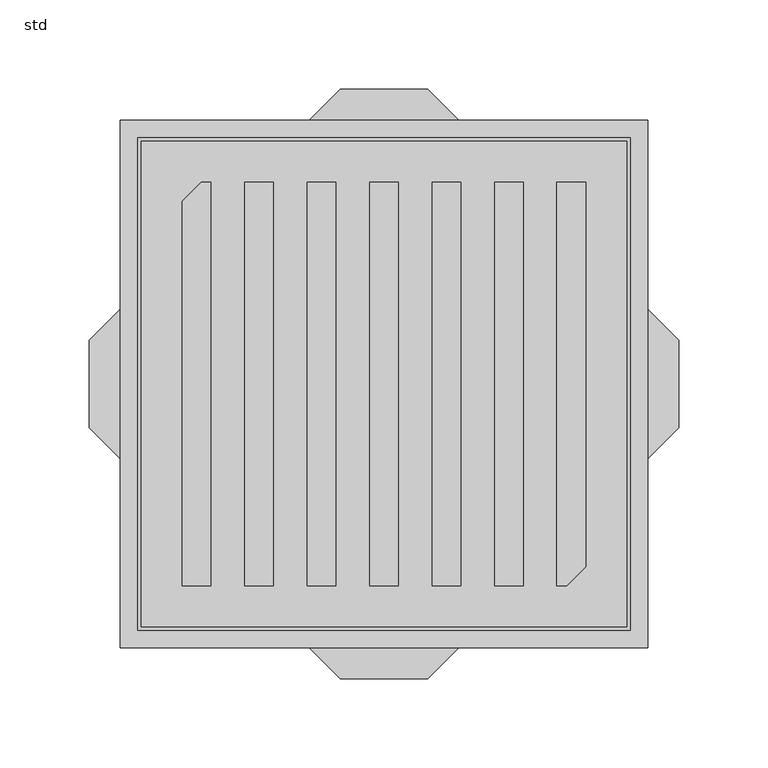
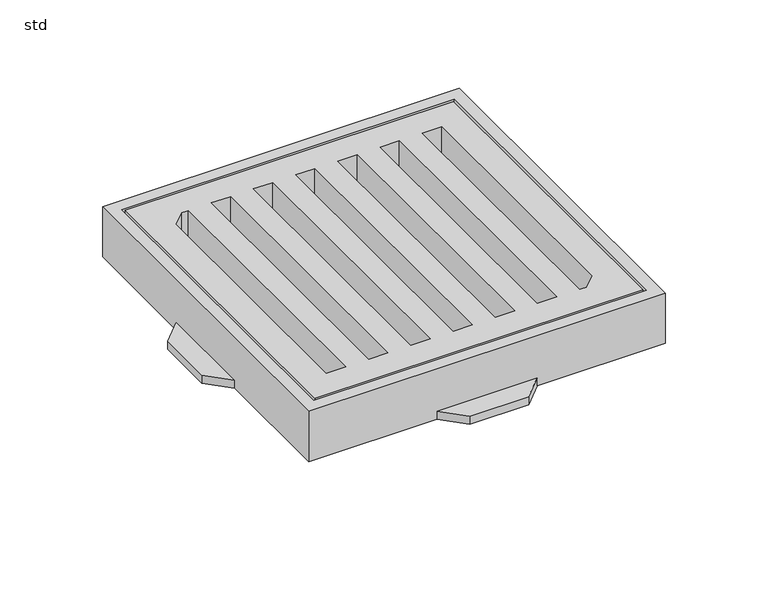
"""IFC4 building model written with IfcOpenShell, lengths in millimetres: sanitary terminal geometry, ZZZ_do_not_use_PF_CI_WPB_top frame with grating for Passavant Jet_ACO : std."""

from ifc_helpers import new_model, si_unit, point, frame, origin, origin_2d, place, context, project, spatial, polyline, circle_curve, trimmed, segment, composite_curve, outline, extrude, faceted_brep, source, transform, mapped, element, save
from ifc_brep_helpers import plane_surface, revolved_surface, advanced_brep


def std_5ca6e648(model_context):
    return source(origin(), model_context, "Body", "SolidModel", [
        extrude(outline(composite_curve([segment(trimmed(circle_curve(origin_2d(), 91.1), [point((91.1, 0.0))], [point((-91.1, 0.0))], False, "CARTESIAN"), True, "CONTINUOUS"), segment(trimmed(circle_curve(origin_2d(), 91.1), [point((-91.1, 0.0))], [point((91.1, 0.0))], False, "CARTESIAN"), True, "CONTINUOUS")], self_intersect=False)), frame((0.0, 0.0, -5.0), z_axis=(0.0, 0.0, 1.0), x_axis=(1.0, 0.0, 0.0)), (0.0, 0.0, 1.0), 5.0),
        advanced_brep(
        [(100.0, 0.0, 0.0), (-100.0, 0.0, 0.0), (122.5, 0.0, 36.0), (-122.5, 0.0, 36.0)],
        [
            (0, 1, circle_curve(frame((0.0, 0.0, 0.0), z_axis=(0.0, 0.0, -1.0), x_axis=(1.0, 0.0, 0.0)), 100.0)),
            (1, 0, circle_curve(frame((0.0, 0.0, 0.0), z_axis=(0.0, 0.0, -1.0), x_axis=(-1.0, 0.0, 0.0)), 100.0)),
            (2, 3, circle_curve(frame((0.0, 0.0, 36.0), z_axis=(0.0, 0.0, 1.0), x_axis=(-1.0, 0.0, 0.0)), 122.5)),
            (3, 2, circle_curve(frame((0.0, 0.0, 36.0), z_axis=(0.0, 0.0, 1.0), x_axis=(1.0, 0.0, 0.0)), 122.5)),
            (2, 0),
            (1, 3),
        ],
        [
            plane_surface(frame((0.0, 0.0, 0.0), z_axis=(0.0, 0.0, -1.0), x_axis=(0.0, 1.0, 0.0))),
            plane_surface(frame((0.0, 0.0, 36.0), z_axis=(0.0, 0.0, 1.0), x_axis=(0.0, 1.0, 0.0))),
            revolved_surface(polyline([(-100.0, 0.0, 0.0), (-122.5, 0.0, 36.0)]), (0.0, 0.0, -160.0), (0.0, 0.0, 1.0)),
            revolved_surface(polyline([(100.0, 0.0, 0.0), (122.5, 0.0, 36.0)]), (0.0, 0.0, -160.0), (0.0, 0.0, 1.0)),
        ],
        [
            (0, [[1, 2]]),
            (1, [[3, 4]]),
            (2, [[-3, 5, -2, 6]]),
            (3, [[-4, -6, -1, -5]]),
        ],
    ),
        faceted_brep([(138.0, -138.0, 43.0), (138.0, -51.8, 43.0), (138.0, 51.8, 43.0), (138.0, 138.0, 43.0), (51.8, 138.0, 43.0), (-51.8, 138.0, 43.0), (-138.0, 138.0, 43.0), (-138.0, 51.8, 43.0), (-138.0, -51.8, 43.0), (-138.0, -138.0, 43.0), (-51.8, -138.0, 43.0), (51.8, -138.0, 43.0), (148.0, -41.8, 36.0), (148.0, -148.0, 36.0), (41.8, -148.0, 36.0), (24.5, -165.3, 36.0), (-24.5, -165.3, 36.0), (-41.8, -148.0, 36.0), (-148.0, -148.0, 36.0), (-148.0, -41.8, 36.0), (-165.3, -24.5, 36.0), (-165.3, 24.5, 36.0), (-148.0, 41.8, 36.0), (-148.0, 148.0, 36.0), (-41.8, 148.0, 36.0), (-24.5, 165.3, 36.0), (24.5, 165.3, 36.0), (41.8, 148.0, 36.0), (148.0, 148.0, 36.0), (148.0, 41.8, 36.0), (165.3, 24.5, 36.0), (165.3, -24.5, 36.0), (-148.0, 148.0, 80.0), (148.0, 148.0, 80.0), (41.8, 148.0, 43.0), (-41.8, 148.0, 43.0), (-148.0, -148.0, 80.0), (-148.0, 41.8, 43.0), (-148.0, -41.8, 43.0), (148.0, -148.0, 80.0), (-41.8, -148.0, 43.0), (41.8, -148.0, 43.0), (148.0, -41.8, 43.0), (148.0, 41.8, 43.0), (138.0, 138.0, 80.0), (138.0, -138.0, 80.0), (-138.0, -138.0, 80.0), (-138.0, 138.0, 80.0), (-165.3, 24.5, 43.0), (-165.3, -24.5, 43.0), (-24.5, -165.3, 43.0), (24.5, -165.3, 43.0), (165.3, -24.5, 43.0), (165.3, 24.5, 43.0), (24.5, 165.3, 43.0), (-24.5, 165.3, 43.0)], [[[0, 1, 2, 3, 4, 5, 6, 7, 8, 9, 10, 11]], [[12, 13, 14, 15, 16, 17, 18, 19, 20, 21, 22, 23, 24, 25, 26, 27, 28, 29, 30, 31]], [[32, 33, 28, 27, 34, 35, 24, 23]], [[36, 32, 23, 22, 37, 38, 19, 18]], [[39, 36, 18, 17, 40, 41, 14, 13]], [[33, 39, 13, 12, 42, 43, 29, 28]], [[33, 32, 36, 39], [44, 45, 46, 47]], [[45, 44, 3, 2, 1, 0]], [[46, 45, 0, 11, 10, 9]], [[47, 46, 9, 8, 7, 6]], [[44, 47, 6, 5, 4, 3]], [[48, 49, 38, 37]], [[50, 51, 41, 40]], [[52, 53, 43, 42]], [[54, 55, 35, 34]], [[21, 20, 49, 48]], [[49, 20, 19, 38]], [[16, 50, 40, 17]], [[16, 15, 51, 50]], [[51, 15, 14, 41]], [[31, 52, 42, 12]], [[31, 30, 53, 52]], [[53, 30, 29, 43]], [[26, 54, 34, 27]], [[26, 25, 55, 54]], [[21, 48, 37, 22]], [[55, 25, 24, 35]]]),
        extrude(outline(polyline([(136.0, 136.0), (136.0, -136.0), (-136.0, -136.0), (-136.0, 136.0), (136.0, 136.0)]), holes=[polyline([(-27.0, -113.0), (-27.0, 113.0), (-43.0, 113.0), (-43.0, -113.0), (-27.0, -113.0)]), polyline([(-62.0, -113.0), (-62.0, 113.0), (-78.0, 113.0), (-78.0, -113.0), (-62.0, -113.0)]), polyline([(-8.0, -113.0), (8.0, -113.0), (8.0, 113.0), (-8.0, 113.0), (-8.0, -113.0)]), polyline([(27.0, -113.0), (43.0, -113.0), (43.0, 113.0), (27.0, 113.0), (27.0, -113.0)]), polyline([(62.0, -113.0), (78.0, -113.0), (78.0, 113.0), (62.0, 113.0), (62.0, -113.0)]), polyline([(97.0, -113.0), (102.4320804, -113.0), (113.0, -102.4309195), (113.0, 113.0), (97.0, 113.0), (97.0, -113.0)]), polyline([(-113.0, 102.4320804), (-113.0, -113.0), (-97.0, -113.0), (-97.0, 113.0), (-102.4309195, 113.0), (-113.0, 102.4320804)])]), frame((0.0, 0.0, 43.0), z_axis=(0.0, 0.0, 1.0), x_axis=(1.0, 0.0, 0.0)), (0.0, 0.0, 1.0), 37.0),
    ])


if __name__ == "__main__":
    model = new_model("IFC4")
    model_context = context("Model", 3, world=origin())
    ifc_project = project(units=[si_unit("LENGTHUNIT", "METRE", prefix="MILLI")], contexts=[model_context])
    site = spatial("IfcSite", under=ifc_project)
    building = spatial("IfcBuilding", under=site)
    placement = place(None, origin())
    std_shape = std_5ca6e648(model_context)
    element("IfcSanitaryTerminal", 1, ObjectType="ZZZ_do_not_use_PF_CI_WPB_top frame with grating for Passavant Jet_ACO : std", at=placement, inside=building, context=model_context, shape_type="MappedRepresentation", body=[
        mapped(std_shape, transform((0.0, 0.0, 0.0), x_axis=(1.0, 0.0, 0.0), y_axis=(0.0, 1.0, 0.0), z_axis=(0.0, 0.0, 1.0))),
    ])
    save(model, "model.ifc")
